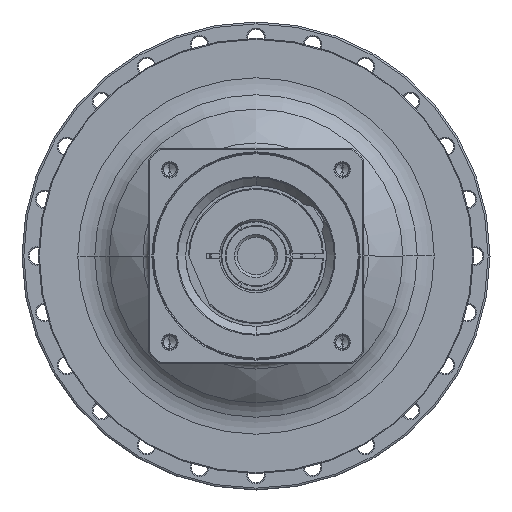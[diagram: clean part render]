
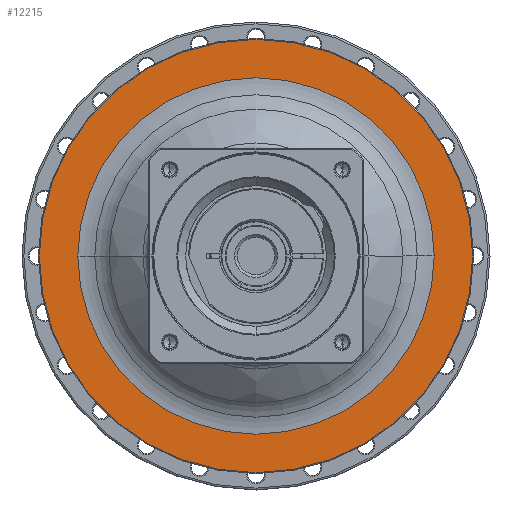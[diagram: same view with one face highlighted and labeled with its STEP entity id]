
A CAD part, left-side view. The second image highlights one B-rep face of the part: STEP entity #12215.
In plain terms, the highlighted planar face has unit normal (-1, 0, 0) as drawn and (1, 0, 0) by its records, which use the part's own axes.
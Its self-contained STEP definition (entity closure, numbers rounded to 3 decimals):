
#11622=CARTESIAN_POINT('',(-27.,0.,0.));
#11623=DIRECTION('',(1.,0.,0.));
#11624=DIRECTION('',(0.,1.,0.));
#11625=AXIS2_PLACEMENT_3D('',#11622,#11623,#11624);
#11627=CARTESIAN_POINT('',(-27.,0.,0.));
#11628=DIRECTION('',(1.,0.,0.));
#11629=DIRECTION('',(0.,-1.,0.));
#11630=AXIS2_PLACEMENT_3D('',#11627,#11628,#11629);
#11632=CARTESIAN_POINT('',(-27.,0.,0.));
#11633=DIRECTION('',(-1.,0.,0.));
#11634=DIRECTION('',(0.,-1.,0.));
#11635=AXIS2_PLACEMENT_3D('',#11632,#11633,#11634);
#11637=CARTESIAN_POINT('',(-27.,0.,0.));
#11638=DIRECTION('',(-1.,0.,0.));
#11639=DIRECTION('',(0.,1.,0.));
#11640=AXIS2_PLACEMENT_3D('',#11637,#11638,#11639);
#11766=CARTESIAN_POINT('',(-27.,-115.5,0.));
#11767=CARTESIAN_POINT('',(-27.,115.5,0.));
#11768=VERTEX_POINT('',#11766);
#11769=VERTEX_POINT('',#11767);
#11834=CARTESIAN_POINT('',(-27.,95.,0.));
#11835=VERTEX_POINT('',#11834);
#11836=CARTESIAN_POINT('',(-27.,-95.,0.));
#11837=VERTEX_POINT('',#11836);
#12200=CARTESIAN_POINT('',(-27.,0.,0.));
#12201=DIRECTION('',(1.,0.,0.));
#12202=DIRECTION('',(0.,-1.,0.));
#12203=AXIS2_PLACEMENT_3D('',#12200,#12201,#12202);
#12204=PLANE('',#12203);
#12205=ORIENTED_EDGE('',*,*,#12141,.T.);
#12206=ORIENTED_EDGE('',*,*,#12156,.T.);
#12207=EDGE_LOOP('',(#12205,#12206));
#12208=FACE_OUTER_BOUND('',#12207,.F.);
#12210=ORIENTED_EDGE('',*,*,#12209,.T.);
#12212=ORIENTED_EDGE('',*,*,#12211,.T.);
#12213=EDGE_LOOP('',(#12210,#12212));
#12214=FACE_BOUND('',#12213,.F.);
#12215=ADVANCED_FACE('',(#12208,#12214),#12204,.T.);
#11626=CIRCLE('',#11625,95.);
#11631=CIRCLE('',#11630,95.);
#11636=CIRCLE('',#11635,115.5);
#11641=CIRCLE('',#11640,115.5);
#12141=EDGE_CURVE('',#11768,#11769,#11636,.T.);
#12156=EDGE_CURVE('',#11769,#11768,#11641,.T.);
#12209=EDGE_CURVE('',#11835,#11837,#11626,.T.);
#12211=EDGE_CURVE('',#11837,#11835,#11631,.T.);
